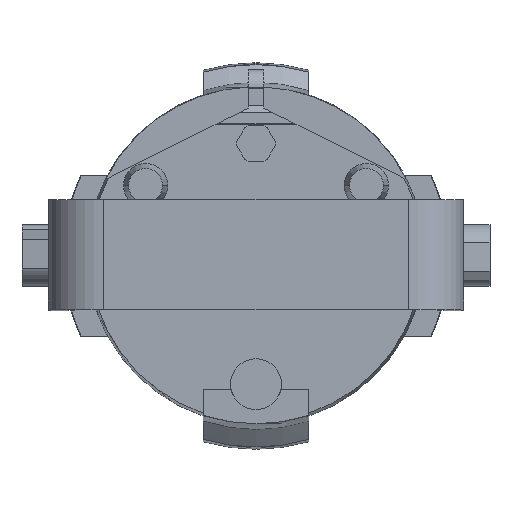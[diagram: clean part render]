
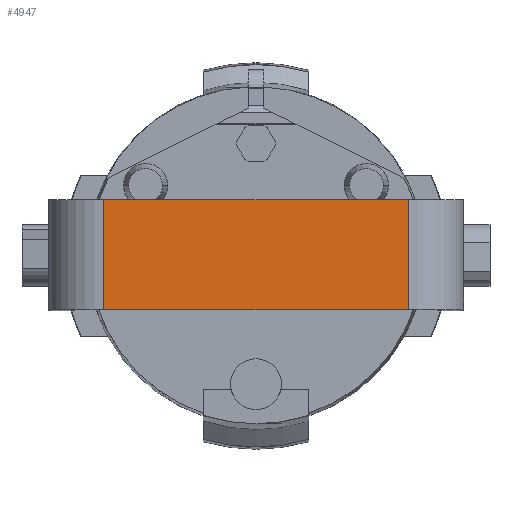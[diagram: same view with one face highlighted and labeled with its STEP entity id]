
A CAD part, top view. The second image highlights one B-rep face of the part: STEP entity #4947.
In plain terms, the highlighted planar face has unit normal (0, 0, 1).
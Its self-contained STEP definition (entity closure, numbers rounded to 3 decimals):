
#4192=DIRECTION('',(1.,0.,0.));
#4193=VECTOR('',#4192,138.);
#4194=CARTESIAN_POINT('',(-69.,-25.,88.));
#4195=LINE('',#4194,#4193);
#4305=DIRECTION('',(0.,1.,0.));
#4306=VECTOR('',#4305,50.);
#4307=CARTESIAN_POINT('',(69.,-25.,88.));
#4308=LINE('',#4307,#4306);
#4309=DIRECTION('',(0.,1.,0.));
#4310=VECTOR('',#4309,50.);
#4311=CARTESIAN_POINT('',(-69.,-25.,88.));
#4312=LINE('',#4311,#4310);
#4352=DIRECTION('',(1.,0.,0.));
#4353=VECTOR('',#4352,138.);
#4354=CARTESIAN_POINT('',(-69.,25.,88.));
#4355=LINE('',#4354,#4353);
#4447=CARTESIAN_POINT('',(-69.,-25.,88.));
#4448=VERTEX_POINT('',#4447);
#4449=CARTESIAN_POINT('',(69.,-25.,88.));
#4450=VERTEX_POINT('',#4449);
#4471=CARTESIAN_POINT('',(-69.,25.,88.));
#4472=VERTEX_POINT('',#4471);
#4473=CARTESIAN_POINT('',(69.,25.,88.));
#4474=VERTEX_POINT('',#4473);
#4934=CARTESIAN_POINT('',(-69.,-25.,88.));
#4935=DIRECTION('',(0.,0.,1.));
#4936=DIRECTION('',(1.,0.,0.));
#4937=AXIS2_PLACEMENT_3D('',#4934,#4935,#4936);
#4938=PLANE('',#4937);
#4939=ORIENTED_EDGE('',*,*,#4753,.F.);
#4941=ORIENTED_EDGE('',*,*,#4940,.T.);
#4943=ORIENTED_EDGE('',*,*,#4942,.T.);
#4944=ORIENTED_EDGE('',*,*,#4926,.F.);
#4945=EDGE_LOOP('',(#4939,#4941,#4943,#4944));
#4946=FACE_OUTER_BOUND('',#4945,.F.);
#4753=EDGE_CURVE('',#4448,#4450,#4195,.T.);
#4926=EDGE_CURVE('',#4450,#4474,#4308,.T.);
#4940=EDGE_CURVE('',#4448,#4472,#4312,.T.);
#4942=EDGE_CURVE('',#4472,#4474,#4355,.T.);
#4947=ADVANCED_FACE('',(#4946),#4938,.T.);
